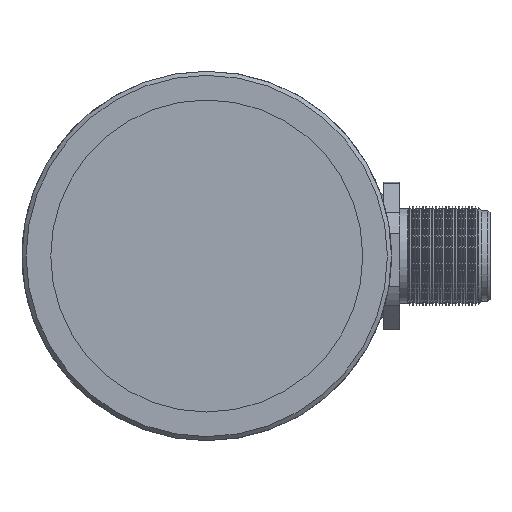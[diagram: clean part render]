
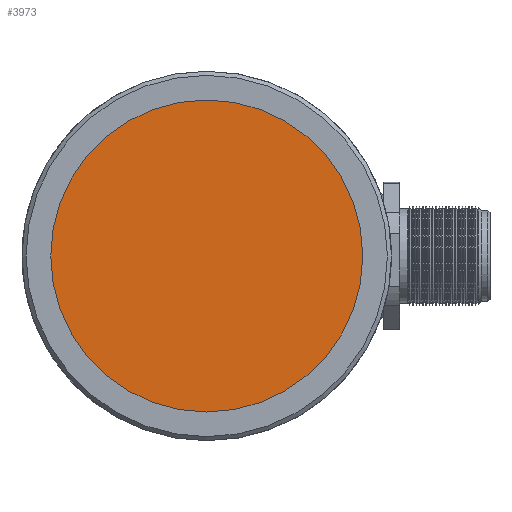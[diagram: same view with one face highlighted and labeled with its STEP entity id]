
A CAD part, left-side view. The second image highlights one B-rep face of the part: STEP entity #3973.
In plain terms, the highlighted planar face has unit normal (-1, 0, 0).
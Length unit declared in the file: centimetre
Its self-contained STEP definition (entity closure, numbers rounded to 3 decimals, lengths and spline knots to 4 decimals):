
#472=PLANE('',#4283);
#961=CIRCLE('',#4282,1.9);
#1184=VERTEX_POINT('',#5697);
#1615=EDGE_CURVE('',#1184,#1184,#961,.T.);
#2151=ORIENTED_EDGE('',*,*,#1615,.T.);
#3160=EDGE_LOOP('',(#2151));
#3577=FACE_BOUND('',#3160,.T.);
#3973=ADVANCED_FACE('',(#3577),#472,.F.);
#4282=AXIS2_PLACEMENT_3D('',#5696,#4726,#4727);
#4283=AXIS2_PLACEMENT_3D('',#5698,#4728,$);
#4726=DIRECTION('',(-1.,0.,0.));
#4727=DIRECTION('',(0.,0.,-1.9));
#4728=DIRECTION('',(1.,0.,0.));
#5696=CARTESIAN_POINT('',(-2.4,0.,0.));
#5697=CARTESIAN_POINT('',(-2.4,0.,-1.9));
#5698=CARTESIAN_POINT('',(-2.4,0.,0.));
